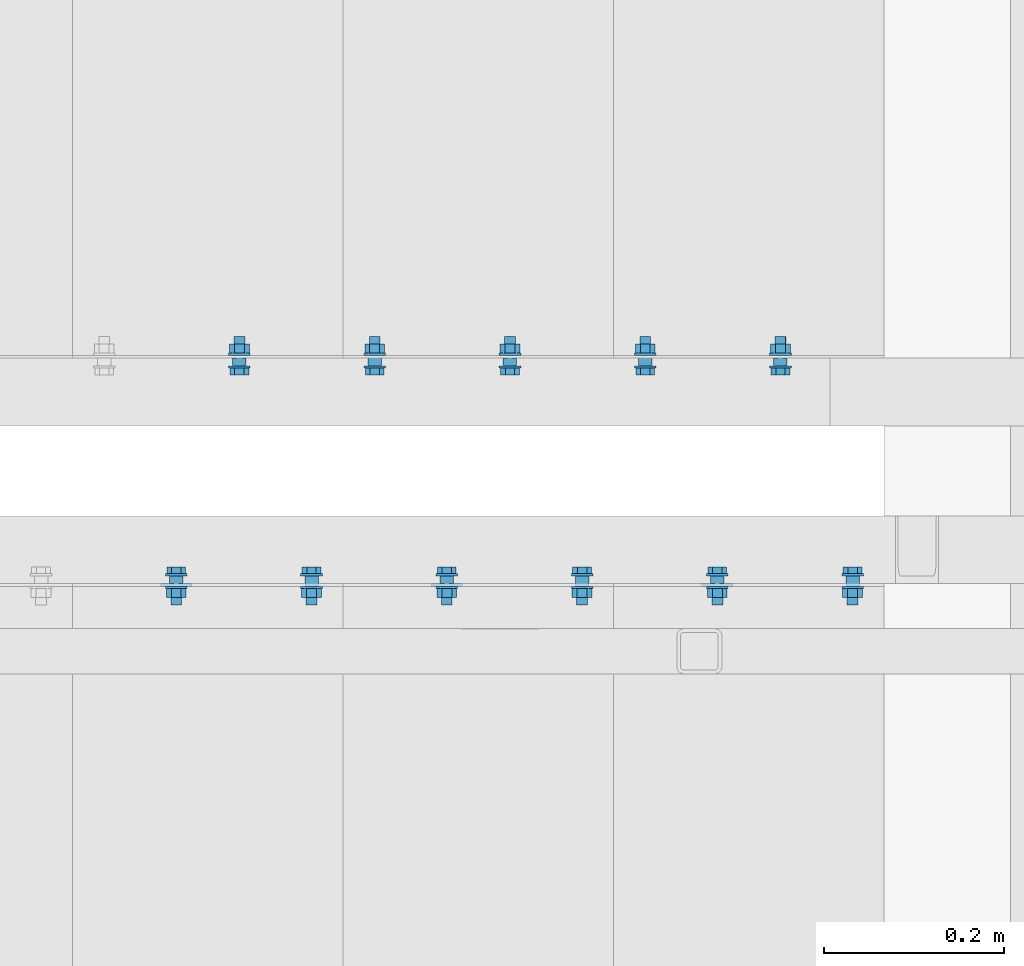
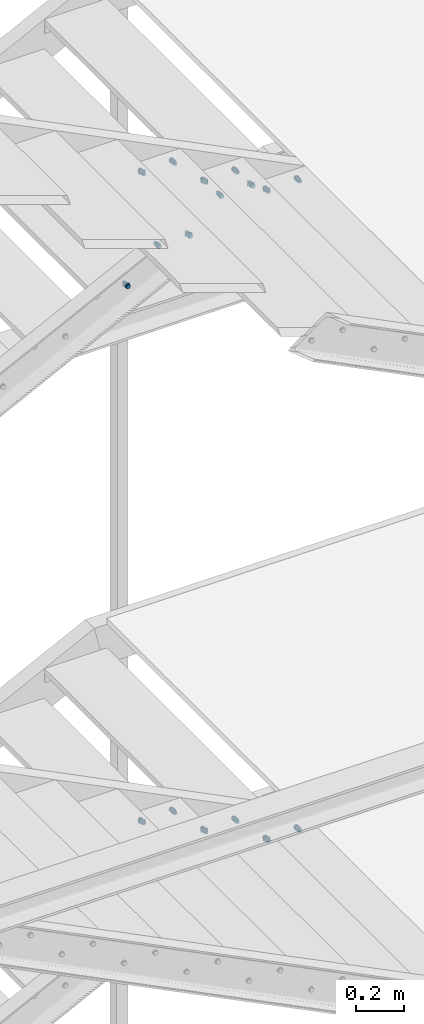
# One storey, part 109 of 132: 17 mechanical fasteners, 9 elements without a shape of their own.
"""IFC2X3 building model written with IfcOpenShell, lengths in millimetres."""

from ifc_helpers import new_model, si_unit, frame, frame_2d, origin_with_axes, origin_2d_with_axis, place, context, subcontext, project, spatial, polyline, circle_curve, parameter, trimmed, segment, composite_curve, circle, outline, extrude, source, transform, mapped, material, type_object, element, aggregate, save


model = new_model("IFC2X3")

# Units and contexts
model_context = context("Model", 3, precision=1e-05, world=origin_with_axes())
body_context = subcontext(model_context, "Body", "Model", "MODEL_VIEW")
ifc_project = project(units=[si_unit("LENGTHUNIT", "METRE", prefix="MILLI"), si_unit("AREAUNIT", "SQUARE_METRE"), si_unit("VOLUMEUNIT", "CUBIC_METRE"), si_unit("MASSUNIT", "GRAM", prefix="KILO"), si_unit("TIMEUNIT", "SECOND"), si_unit("PLANEANGLEUNIT", "RADIAN"), si_unit("SOLIDANGLEUNIT", "STERADIAN"), si_unit("THERMODYNAMICTEMPERATUREUNIT", "DEGREE_CELSIUS"), si_unit("LUMINOUSINTENSITYUNIT", "LUMEN")], contexts=[model_context])

# Site, building, storey
site_placement = place(None, origin_with_axes())
site = spatial("IfcSite", under=ifc_project, at=site_placement, Name="Budowa", CompositionType="ELEMENT")
building_placement = place(site_placement, origin_with_axes())
building = spatial("IfcBuilding", under=site, at=building_placement, Name="Undefined", CompositionType="ELEMENT")
storey_placement = place(building_placement, origin_with_axes())
storey = spatial("IfcBuildingStorey", under=building, at=storey_placement, Name="Undefined", CompositionType="ELEMENT", Elevation=0.0)

# Assembly, mechanical fastener
assembly_1_placement = place(storey_placement, origin_with_axes())
assembly_1 = element("IfcElementAssembly", 1, at=assembly_1_placement, inside=storey, Name="Steel Assembly", AssemblyPlace="NOTDEFINED", PredefinedType="RIGID_FRAME")
ifc_material = material(Name="Undefined")
discrete_accessory_type = type_object("IfcDiscreteAccessoryType", Name="Bolt assembly")
shared_shape_1 = source(origin_with_axes(), body_context, "Body", "SweptSolid", [
    extrude(circle(Radius=7.5, at=origin_2d_with_axis()), frame((0.0, -8.40000000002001, 0.0), z_axis=(0.0, 1.0, 0.0), x_axis=(1.0, 0.0, 0.0)), (0.0, 0.0, 1.0), 8.5),
    extrude(circle(Radius=7.5, at=origin_2d_with_axis()), frame((0.0, -0.1, 0.0), z_axis=(0.0, 1.0, 0.0), x_axis=(1.0, 0.0, 0.0)), (0.0, 0.0, 1.0), 3.1),
    extrude(outline(polyline([(10.39230484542, 0.0), (5.19615242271, 9.00000000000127), (-5.19615242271, 9.00000000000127), (-10.39230484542, 0.0), (-5.19615242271, -9.00000000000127), (5.19615242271, -9.00000000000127), (10.39230484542, 0.0)])), frame((0.0, -18.50000000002, 0.0), z_axis=(0.0, 1.0, 0.0), x_axis=(1.0, 0.0, 0.0)), (0.0, 0.0, 1.0), 7.5),
    extrude(circle(Radius=6.0, at=origin_2d_with_axis()), frame((0.0, -11.00000000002, 0.0), z_axis=(0.0, 1.0, 0.0), x_axis=(1.0, 0.0, 0.0)), (0.0, 0.0, 1.0), 35.0),
    extrude(circle(Radius=12.0, at=origin_2d_with_axis()), frame((0.0, -11.00000000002, 0.0), z_axis=(0.0, 1.0, 0.0), x_axis=(1.0, 0.0, 0.0)), (0.0, 0.0, 1.0), 2.5),
    extrude(circle(Radius=12.0, at=origin_2d_with_axis()), frame((0.0, 3.0, 0.0), z_axis=(0.0, 1.0, 0.0), x_axis=(1.0, 0.0, 0.0)), (0.0, 0.0, 1.0), 2.5),
    extrude(outline(polyline([(10.96965511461, 0.0), (5.484827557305, 9.50000000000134), (-5.484827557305, 9.50000000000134), (-10.96965511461, 0.0), (-5.484827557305, -9.50000000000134), (5.484827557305, -9.50000000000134), (10.96965511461, 0.0)])), frame((0.0, 5.5, 0.0), z_axis=(0.0, 1.0, 0.0), x_axis=(1.0, 0.0, 0.0)), (0.0, 0.0, 1.0), 10.0),
])
mechanical_fastener_1_placement = place(assembly_1_placement, frame((-1720.00000007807, 9275.00000004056, 7700.00000000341), z_axis=(0.0, 0.0, -1.0), x_axis=(1.0, 0.0, 0.0)))
mechanical_fastener_1 = element("IfcMechanicalFastener", 2, at=mechanical_fastener_1_placement, type_object=discrete_accessory_type, material=ifc_material, Name="Bolt assembly", NominalDiameter=12.0, NominalLength=35.0, context=body_context, shape_type="MappedRepresentation", body=[
    mapped(shared_shape_1, transform((265.0, 0.0, 25.0))),
])

assembly_2_placement = place(storey_placement, origin_with_axes())
assembly_2 = element("IfcElementAssembly", 3, at=assembly_2_placement, inside=storey, Name="Steel Assembly", AssemblyPlace="NOTDEFINED", PredefinedType="RIGID_FRAME")
mechanical_fastener_2_placement = place(assembly_2_placement, frame((-1420.00000007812, 9275.00000004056, 7550.00000000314), z_axis=(0.0, 0.0, -1.0), x_axis=(1.0, 0.0, 0.0)))
mechanical_fastener_2 = element("IfcMechanicalFastener", 4, at=mechanical_fastener_2_placement, type_object=discrete_accessory_type, material=ifc_material, Name="Bolt assembly", NominalDiameter=12.0, NominalLength=35.0, context=body_context, shape_type="MappedRepresentation", body=[
    mapped(shared_shape_1, transform((265.0, 0.0, 25.0))),
])

assembly_3_placement = place(storey_placement, origin_with_axes())
assembly_3 = element("IfcElementAssembly", 5, at=assembly_3_placement, inside=storey, Name="Steel Assembly", AssemblyPlace="NOTDEFINED", PredefinedType="RIGID_FRAME")
mechanical_fastener_3_placement = place(assembly_3_placement, frame((-1120.00000007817, 9275.00000004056, 7400.00000000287), z_axis=(0.0, 0.0, -1.0), x_axis=(1.0, 0.0, 0.0)))
mechanical_fastener_3 = element("IfcMechanicalFastener", 6, at=mechanical_fastener_3_placement, type_object=discrete_accessory_type, material=ifc_material, Name="Bolt assembly", NominalDiameter=12.0, NominalLength=35.0, context=body_context, shape_type="MappedRepresentation", body=[
    mapped(shared_shape_1, transform((265.0, 0.0, 25.0))),
])

assembly_4_placement = place(storey_placement, origin_with_axes())
assembly_4 = element("IfcElementAssembly", 7, at=assembly_4_placement, inside=storey, Name="Steel Assembly", AssemblyPlace="NOTDEFINED", PredefinedType="RIGID_FRAME")
mechanical_fastener_4_placement = place(assembly_4_placement, frame((-820.000000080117, 9525.0000000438, 7249.99999999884), z_axis=(0.0, 0.0, -1.0), x_axis=(-1.0, 0.0, 0.0)))
mechanical_fastener_4 = element("IfcMechanicalFastener", 8, at=mechanical_fastener_4_placement, type_object=discrete_accessory_type, material=ifc_material, Name="Bolt assembly", NominalDiameter=12.0, NominalLength=35.0, context=body_context, shape_type="MappedRepresentation", body=[
    mapped(shared_shape_1, transform((265.0, 0.0, 25.0))),
])

assembly_5_placement = place(storey_placement, origin_with_axes())
assembly_5 = element("IfcElementAssembly", 9, at=assembly_5_placement, inside=storey, Name="Steel Assembly", AssemblyPlace="NOTDEFINED", PredefinedType="RIGID_FRAME")
mechanical_fastener_5_placement = place(assembly_5_placement, frame((-1120.00000008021, 9525.0000000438, 7099.99999999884), z_axis=(0.0, 0.0, -1.0), x_axis=(-1.0, 0.0, 0.0)))
mechanical_fastener_5 = element("IfcMechanicalFastener", 10, at=mechanical_fastener_5_placement, type_object=discrete_accessory_type, material=ifc_material, Name="Bolt assembly", NominalDiameter=12.0, NominalLength=35.0, context=body_context, shape_type="MappedRepresentation", body=[
    mapped(shared_shape_1, transform((265.0, 0.0, 25.0))),
])

assembly_6_placement = place(storey_placement, origin_with_axes())
assembly_6 = element("IfcElementAssembly", 11, at=assembly_6_placement, inside=storey, Name="Steel Assembly", AssemblyPlace="NOTDEFINED", PredefinedType="RIGID_FRAME")
mechanical_fastener_6_placement = place(assembly_6_placement, frame((-1720.00000007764, 9275.00000004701, 4399.99999999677), z_axis=(0.0, 0.0, -1.0), x_axis=(1.0, 0.0, 0.0)))
mechanical_fastener_6 = element("IfcMechanicalFastener", 12, at=mechanical_fastener_6_placement, type_object=discrete_accessory_type, material=ifc_material, Name="Bolt assembly", NominalDiameter=12.0, NominalLength=35.0, context=body_context, shape_type="MappedRepresentation", body=[
    mapped(shared_shape_1, transform((265.0, 0.0, 25.0))),
])

assembly_7_placement = place(storey_placement, origin_with_axes())
assembly_7 = element("IfcElementAssembly", 13, at=assembly_7_placement, inside=storey, Name="Steel Assembly", AssemblyPlace="NOTDEFINED", PredefinedType="RIGID_FRAME")
mechanical_fastener_7_placement = place(assembly_7_placement, frame((-1420.00000007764, 9275.00000004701, 4249.99999999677), z_axis=(0.0, 0.0, -1.0), x_axis=(1.0, 0.0, 0.0)))
mechanical_fastener_7 = element("IfcMechanicalFastener", 14, at=mechanical_fastener_7_placement, type_object=discrete_accessory_type, material=ifc_material, Name="Bolt assembly", NominalDiameter=12.0, NominalLength=35.0, context=body_context, shape_type="MappedRepresentation", body=[
    mapped(shared_shape_1, transform((265.0, 0.0, 25.0))),
])

assembly_8_placement = place(storey_placement, origin_with_axes())
assembly_8 = element("IfcElementAssembly", 15, at=assembly_8_placement, inside=storey, Name="Steel Assembly", AssemblyPlace="NOTDEFINED", PredefinedType="RIGID_FRAME")
mechanical_fastener_8_placement = place(assembly_8_placement, frame((-1120.00000007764, 9275.00000004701, 4099.99999999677), z_axis=(0.0, 0.0, -1.0), x_axis=(1.0, 0.0, 0.0)))
mechanical_fastener_8 = element("IfcMechanicalFastener", 16, at=mechanical_fastener_8_placement, type_object=discrete_accessory_type, material=ifc_material, Name="Bolt assembly", NominalDiameter=12.0, NominalLength=35.0, context=body_context, shape_type="MappedRepresentation", body=[
    mapped(shared_shape_1, transform((265.0, 0.0, 25.0))),
])

# Mechanical fastener
shared_shape_2 = source(origin_with_axes(), body_context, "Body", "SweptSolid", [
    extrude(circle(Radius=7.5, at=origin_2d_with_axis()), frame((0.0, -8.40000000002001, 0.0), z_axis=(0.0, 1.0, 0.0), x_axis=(1.0, 0.0, 0.0)), (0.0, 0.0, 1.0), 8.5),
    extrude(outline(composite_curve([segment(polyline([(-10.0, 7.5), (10.0, 7.5)]), True, "CONTINUOUS"), segment(trimmed(circle_curve(frame_2d((10.0, 0.0), x_axis=(0.0, 1.0)), 7.5), [parameter(0.0)], [parameter(3.14159265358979)], False, "PARAMETER"), True, "CONTINUOUS"), segment(polyline([(10.0, -7.5), (-10.0, -7.5)]), True, "CONTINUOUS"), segment(trimmed(circle_curve(frame_2d((-10.0, 0.0), x_axis=(0.0, -1.0)), 7.5), [parameter(0.0)], [parameter(3.14159265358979)], False, "PARAMETER"), True, "DISCONTINUOUS")], self_intersect=False)), frame((0.0, -0.1, 0.0), z_axis=(0.0, 1.0, 0.0), x_axis=(1.0, 0.0, 0.0)), (0.0, 0.0, 1.0), 3.1),
    extrude(outline(polyline([(10.39230484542, 0.0), (5.19615242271, 9.00000000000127), (-5.19615242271, 9.00000000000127), (-10.39230484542, 0.0), (-5.19615242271, -9.00000000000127), (5.19615242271, -9.00000000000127), (10.39230484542, 0.0)])), frame((0.0, -18.50000000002, 0.0), z_axis=(0.0, 1.0, 0.0), x_axis=(1.0, 0.0, 0.0)), (0.0, 0.0, 1.0), 7.5),
    extrude(circle(Radius=6.0, at=origin_2d_with_axis()), frame((0.0, -11.00000000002, 0.0), z_axis=(0.0, 1.0, 0.0), x_axis=(1.0, 0.0, 0.0)), (0.0, 0.0, 1.0), 35.0),
    extrude(circle(Radius=12.0, at=origin_2d_with_axis()), frame((0.0, -11.00000000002, 0.0), z_axis=(0.0, 1.0, 0.0), x_axis=(1.0, 0.0, 0.0)), (0.0, 0.0, 1.0), 2.5),
    extrude(circle(Radius=12.0, at=origin_2d_with_axis()), frame((0.0, 3.0, 0.0), z_axis=(0.0, 1.0, 0.0), x_axis=(1.0, 0.0, 0.0)), (0.0, 0.0, 1.0), 2.5),
    extrude(outline(polyline([(10.96965511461, 0.0), (5.484827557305, 9.50000000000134), (-5.484827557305, 9.50000000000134), (-10.96965511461, 0.0), (-5.484827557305, -9.50000000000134), (5.484827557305, -9.50000000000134), (10.96965511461, 0.0)])), frame((0.0, 5.5, 0.0), z_axis=(0.0, 1.0, 0.0), x_axis=(1.0, 0.0, 0.0)), (0.0, 0.0, 1.0), 10.0),
])
mechanical_fastener_9_placement = place(assembly_1_placement, frame((-1720.00000007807, 9275.00000004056, 7700.00000000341), z_axis=(0.0, 0.0, -1.0), x_axis=(1.0, 0.0, 0.0)))
mechanical_fastener_9 = element("IfcMechanicalFastener", 17, at=mechanical_fastener_9_placement, type_object=discrete_accessory_type, material=ifc_material, Name="Bolt assembly", NominalDiameter=12.0, NominalLength=35.0, context=body_context, shape_type="MappedRepresentation", body=[
    mapped(shared_shape_2, transform((115.0, 0.0, 25.0))),
])

aggregate(assembly_1, [mechanical_fastener_9, mechanical_fastener_1])

shared_shape_3 = source(origin_with_axes(), body_context, "Body", "SweptSolid", [
    extrude(circle(Radius=7.5, at=origin_2d_with_axis()), frame((0.0, -8.40000000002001, 0.0), z_axis=(0.0, 1.0, 0.0), x_axis=(1.0, 0.0, 0.0)), (0.0, 0.0, 1.0), 8.5),
    extrude(outline(composite_curve([segment(polyline([(-10.0, 7.5), (10.0, 7.5)]), True, "CONTINUOUS"), segment(trimmed(circle_curve(frame_2d((10.0, 0.0), x_axis=(0.0, 1.0)), 7.5), [parameter(0.0)], [parameter(3.14159265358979)], False, "PARAMETER"), True, "CONTINUOUS"), segment(polyline([(10.0, -7.5), (-10.0, -7.5)]), True, "CONTINUOUS"), segment(trimmed(circle_curve(frame_2d((-10.0, 0.0), x_axis=(0.0, -1.0)), 7.5), [parameter(0.0)], [parameter(3.14159265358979)], False, "PARAMETER"), True, "DISCONTINUOUS")], self_intersect=False)), frame((0.0, -0.1, 0.0), z_axis=(0.0, 1.0, 0.0), x_axis=(1.0, 0.0, 0.0)), (0.0, 0.0, 1.0), 3.1),
    extrude(outline(polyline([(10.39230484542, 0.0), (5.19615242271, 9.00000000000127), (-5.19615242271, 9.00000000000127), (-10.39230484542, 0.0), (-5.19615242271, -9.00000000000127), (5.19615242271, -9.00000000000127), (10.39230484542, 0.0)])), frame((0.0, -18.50000000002, 0.0), z_axis=(0.0, 1.0, 0.0), x_axis=(1.0, 0.0, 0.0)), (0.0, 0.0, 1.0), 7.5),
    extrude(circle(Radius=6.0, at=origin_2d_with_axis()), frame((0.0, -11.00000000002, 0.0), z_axis=(0.0, 1.0, 0.0), x_axis=(1.0, 0.0, 0.0)), (0.0, 0.0, 1.0), 35.0),
    extrude(circle(Radius=12.0, at=origin_2d_with_axis()), frame((0.0, -11.00000000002, 0.0), z_axis=(0.0, 1.0, 0.0), x_axis=(1.0, 0.0, 0.0)), (0.0, 0.0, 1.0), 2.5),
    extrude(circle(Radius=12.0, at=origin_2d_with_axis()), frame((0.0, 3.0, 0.0), z_axis=(0.0, 1.0, 0.0), x_axis=(1.0, 0.0, 0.0)), (0.0, 0.0, 1.0), 2.5),
    extrude(outline(polyline([(10.96965511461, 0.0), (5.484827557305, 9.50000000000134), (-5.484827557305, 9.50000000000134), (-10.96965511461, 0.0), (-5.484827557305, -9.50000000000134), (5.484827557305, -9.50000000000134), (10.96965511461, 0.0)])), frame((0.0, 5.5, 0.0), z_axis=(0.0, 1.0, 0.0), x_axis=(1.0, 0.0, 0.0)), (0.0, 0.0, 1.0), 10.0),
])
mechanical_fastener_10_placement = place(assembly_2_placement, frame((-1420.00000007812, 9275.00000004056, 7550.00000000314), z_axis=(0.0, 0.0, -1.0), x_axis=(1.0, 0.0, 0.0)))
mechanical_fastener_10 = element("IfcMechanicalFastener", 18, at=mechanical_fastener_10_placement, type_object=discrete_accessory_type, material=ifc_material, Name="Bolt assembly", NominalDiameter=12.0, NominalLength=35.0, context=body_context, shape_type="MappedRepresentation", body=[
    mapped(shared_shape_3, transform((115.0, 0.0, 25.0))),
])

aggregate(assembly_2, [mechanical_fastener_10, mechanical_fastener_2])

shared_shape_4 = source(origin_with_axes(), body_context, "Body", "SweptSolid", [
    extrude(circle(Radius=7.5, at=origin_2d_with_axis()), frame((0.0, -8.40000000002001, 0.0), z_axis=(0.0, 1.0, 0.0), x_axis=(1.0, 0.0, 0.0)), (0.0, 0.0, 1.0), 8.5),
    extrude(outline(composite_curve([segment(polyline([(-10.0, 7.5), (10.0, 7.5)]), True, "CONTINUOUS"), segment(trimmed(circle_curve(frame_2d((10.0, 0.0), x_axis=(0.0, 1.0)), 7.5), [parameter(0.0)], [parameter(3.14159265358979)], False, "PARAMETER"), True, "CONTINUOUS"), segment(polyline([(10.0, -7.5), (-10.0, -7.5)]), True, "CONTINUOUS"), segment(trimmed(circle_curve(frame_2d((-10.0, 0.0), x_axis=(0.0, -1.0)), 7.5), [parameter(0.0)], [parameter(3.14159265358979)], False, "PARAMETER"), True, "DISCONTINUOUS")], self_intersect=False)), frame((0.0, -0.1, 0.0), z_axis=(0.0, 1.0, 0.0), x_axis=(1.0, 0.0, 0.0)), (0.0, 0.0, 1.0), 3.1),
    extrude(outline(polyline([(10.39230484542, 0.0), (5.19615242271, 9.00000000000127), (-5.19615242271, 9.00000000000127), (-10.39230484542, 0.0), (-5.19615242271, -9.00000000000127), (5.19615242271, -9.00000000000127), (10.39230484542, 0.0)])), frame((0.0, -18.50000000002, 0.0), z_axis=(0.0, 1.0, 0.0), x_axis=(1.0, 0.0, 0.0)), (0.0, 0.0, 1.0), 7.5),
    extrude(circle(Radius=6.0, at=origin_2d_with_axis()), frame((0.0, -11.00000000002, 0.0), z_axis=(0.0, 1.0, 0.0), x_axis=(1.0, 0.0, 0.0)), (0.0, 0.0, 1.0), 35.0),
    extrude(circle(Radius=12.0, at=origin_2d_with_axis()), frame((0.0, -11.00000000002, 0.0), z_axis=(0.0, 1.0, 0.0), x_axis=(1.0, 0.0, 0.0)), (0.0, 0.0, 1.0), 2.5),
    extrude(circle(Radius=12.0, at=origin_2d_with_axis()), frame((0.0, 3.0, 0.0), z_axis=(0.0, 1.0, 0.0), x_axis=(1.0, 0.0, 0.0)), (0.0, 0.0, 1.0), 2.5),
    extrude(outline(polyline([(10.96965511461, 0.0), (5.484827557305, 9.50000000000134), (-5.484827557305, 9.50000000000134), (-10.96965511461, 0.0), (-5.484827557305, -9.50000000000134), (5.484827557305, -9.50000000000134), (10.96965511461, 0.0)])), frame((0.0, 5.5, 0.0), z_axis=(0.0, 1.0, 0.0), x_axis=(1.0, 0.0, 0.0)), (0.0, 0.0, 1.0), 10.0),
])
mechanical_fastener_11_placement = place(assembly_3_placement, frame((-1120.00000007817, 9275.00000004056, 7400.00000000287), z_axis=(0.0, 0.0, -1.0), x_axis=(1.0, 0.0, 0.0)))
mechanical_fastener_11 = element("IfcMechanicalFastener", 19, at=mechanical_fastener_11_placement, type_object=discrete_accessory_type, material=ifc_material, Name="Bolt assembly", NominalDiameter=12.0, NominalLength=35.0, context=body_context, shape_type="MappedRepresentation", body=[
    mapped(shared_shape_4, transform((115.0, 0.0, 25.0))),
])

aggregate(assembly_3, [mechanical_fastener_11, mechanical_fastener_3])

shared_shape_5 = source(origin_with_axes(), body_context, "Body", "SweptSolid", [
    extrude(circle(Radius=7.5, at=origin_2d_with_axis()), frame((0.0, -8.40000000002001, 0.0), z_axis=(0.0, 1.0, 0.0), x_axis=(1.0, 0.0, 0.0)), (0.0, 0.0, 1.0), 8.5),
    extrude(outline(composite_curve([segment(polyline([(-10.0, 7.5), (10.0, 7.5)]), True, "CONTINUOUS"), segment(trimmed(circle_curve(frame_2d((10.0, 0.0), x_axis=(0.0, 1.0)), 7.5), [parameter(0.0)], [parameter(3.14159265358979)], False, "PARAMETER"), True, "CONTINUOUS"), segment(polyline([(10.0, -7.5), (-10.0, -7.5)]), True, "CONTINUOUS"), segment(trimmed(circle_curve(frame_2d((-10.0, 0.0), x_axis=(0.0, -1.0)), 7.5), [parameter(0.0)], [parameter(3.14159265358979)], False, "PARAMETER"), True, "DISCONTINUOUS")], self_intersect=False)), frame((0.0, -0.1, 0.0), z_axis=(0.0, 1.0, 0.0), x_axis=(1.0, 0.0, 0.0)), (0.0, 0.0, 1.0), 3.1),
    extrude(outline(polyline([(10.39230484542, 0.0), (5.19615242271, 9.00000000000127), (-5.19615242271, 9.00000000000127), (-10.39230484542, 0.0), (-5.19615242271, -9.00000000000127), (5.19615242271, -9.00000000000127), (10.39230484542, 0.0)])), frame((0.0, -18.50000000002, 0.0), z_axis=(0.0, 1.0, 0.0), x_axis=(1.0, 0.0, 0.0)), (0.0, 0.0, 1.0), 7.5),
    extrude(circle(Radius=6.0, at=origin_2d_with_axis()), frame((0.0, -11.00000000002, 0.0), z_axis=(0.0, 1.0, 0.0), x_axis=(1.0, 0.0, 0.0)), (0.0, 0.0, 1.0), 35.0),
    extrude(circle(Radius=12.0, at=origin_2d_with_axis()), frame((0.0, -11.00000000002, 0.0), z_axis=(0.0, 1.0, 0.0), x_axis=(1.0, 0.0, 0.0)), (0.0, 0.0, 1.0), 2.5),
    extrude(circle(Radius=12.0, at=origin_2d_with_axis()), frame((0.0, 3.0, 0.0), z_axis=(0.0, 1.0, 0.0), x_axis=(1.0, 0.0, 0.0)), (0.0, 0.0, 1.0), 2.5),
    extrude(outline(polyline([(10.96965511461, 0.0), (5.484827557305, 9.50000000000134), (-5.484827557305, 9.50000000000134), (-10.96965511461, 0.0), (-5.484827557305, -9.50000000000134), (5.484827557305, -9.50000000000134), (10.96965511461, 0.0)])), frame((0.0, 5.5, 0.0), z_axis=(0.0, 1.0, 0.0), x_axis=(1.0, 0.0, 0.0)), (0.0, 0.0, 1.0), 10.0),
])
mechanical_fastener_12_placement = place(assembly_4_placement, frame((-820.000000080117, 9525.0000000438, 7249.99999999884), z_axis=(0.0, 0.0, -1.0), x_axis=(-1.0, 0.0, 0.0)))
mechanical_fastener_12 = element("IfcMechanicalFastener", 20, at=mechanical_fastener_12_placement, type_object=discrete_accessory_type, material=ifc_material, Name="Bolt assembly", NominalDiameter=12.0, NominalLength=35.0, context=body_context, shape_type="MappedRepresentation", body=[
    mapped(shared_shape_5, transform((115.0, 0.0, 25.0))),
])

aggregate(assembly_4, [mechanical_fastener_12, mechanical_fastener_4])

shared_shape_6 = source(origin_with_axes(), body_context, "Body", "SweptSolid", [
    extrude(circle(Radius=7.5, at=origin_2d_with_axis()), frame((0.0, -8.40000000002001, 0.0), z_axis=(0.0, 1.0, 0.0), x_axis=(1.0, 0.0, 0.0)), (0.0, 0.0, 1.0), 8.5),
    extrude(outline(composite_curve([segment(polyline([(-10.0, 7.5), (10.0, 7.5)]), True, "CONTINUOUS"), segment(trimmed(circle_curve(frame_2d((10.0, 0.0), x_axis=(0.0, 1.0)), 7.5), [parameter(0.0)], [parameter(3.14159265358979)], False, "PARAMETER"), True, "CONTINUOUS"), segment(polyline([(10.0, -7.5), (-10.0, -7.5)]), True, "CONTINUOUS"), segment(trimmed(circle_curve(frame_2d((-10.0, 0.0), x_axis=(0.0, -1.0)), 7.5), [parameter(0.0)], [parameter(3.14159265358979)], False, "PARAMETER"), True, "DISCONTINUOUS")], self_intersect=False)), frame((0.0, -0.1, 0.0), z_axis=(0.0, 1.0, 0.0), x_axis=(1.0, 0.0, 0.0)), (0.0, 0.0, 1.0), 3.1),
    extrude(outline(polyline([(10.39230484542, 0.0), (5.19615242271, 9.00000000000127), (-5.19615242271, 9.00000000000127), (-10.39230484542, 0.0), (-5.19615242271, -9.00000000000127), (5.19615242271, -9.00000000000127), (10.39230484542, 0.0)])), frame((0.0, -18.50000000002, 0.0), z_axis=(0.0, 1.0, 0.0), x_axis=(1.0, 0.0, 0.0)), (0.0, 0.0, 1.0), 7.5),
    extrude(circle(Radius=6.0, at=origin_2d_with_axis()), frame((0.0, -11.00000000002, 0.0), z_axis=(0.0, 1.0, 0.0), x_axis=(1.0, 0.0, 0.0)), (0.0, 0.0, 1.0), 35.0),
    extrude(circle(Radius=12.0, at=origin_2d_with_axis()), frame((0.0, -11.00000000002, 0.0), z_axis=(0.0, 1.0, 0.0), x_axis=(1.0, 0.0, 0.0)), (0.0, 0.0, 1.0), 2.5),
    extrude(circle(Radius=12.0, at=origin_2d_with_axis()), frame((0.0, 3.0, 0.0), z_axis=(0.0, 1.0, 0.0), x_axis=(1.0, 0.0, 0.0)), (0.0, 0.0, 1.0), 2.5),
    extrude(outline(polyline([(10.96965511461, 0.0), (5.484827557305, 9.50000000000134), (-5.484827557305, 9.50000000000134), (-10.96965511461, 0.0), (-5.484827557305, -9.50000000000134), (5.484827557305, -9.50000000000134), (10.96965511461, 0.0)])), frame((0.0, 5.5, 0.0), z_axis=(0.0, 1.0, 0.0), x_axis=(1.0, 0.0, 0.0)), (0.0, 0.0, 1.0), 10.0),
])
mechanical_fastener_13_placement = place(assembly_5_placement, frame((-1120.00000008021, 9525.0000000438, 7099.99999999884), z_axis=(0.0, 0.0, -1.0), x_axis=(-1.0, 0.0, 0.0)))
mechanical_fastener_13 = element("IfcMechanicalFastener", 21, at=mechanical_fastener_13_placement, type_object=discrete_accessory_type, material=ifc_material, Name="Bolt assembly", NominalDiameter=12.0, NominalLength=35.0, context=body_context, shape_type="MappedRepresentation", body=[
    mapped(shared_shape_6, transform((115.0, 0.0, 25.0))),
])

aggregate(assembly_5, [mechanical_fastener_13, mechanical_fastener_5])

# Assembly, mechanical fastener
assembly_9_placement = place(storey_placement, origin_with_axes())
assembly_9 = element("IfcElementAssembly", 22, at=assembly_9_placement, inside=storey, Name="Steel Assembly", AssemblyPlace="NOTDEFINED", PredefinedType="RIGID_FRAME")
shared_shape_7 = source(origin_with_axes(), body_context, "Body", "SweptSolid", [
    extrude(circle(Radius=7.5, at=origin_2d_with_axis()), frame((0.0, -8.40000000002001, 0.0), z_axis=(0.0, 1.0, 0.0), x_axis=(1.0, 0.0, 0.0)), (0.0, 0.0, 1.0), 8.5),
    extrude(outline(composite_curve([segment(polyline([(-10.0, 7.5), (10.0, 7.5)]), True, "CONTINUOUS"), segment(trimmed(circle_curve(frame_2d((10.0, 0.0), x_axis=(0.0, 1.0)), 7.5), [parameter(0.0)], [parameter(3.14159265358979)], False, "PARAMETER"), True, "CONTINUOUS"), segment(polyline([(10.0, -7.5), (-10.0, -7.5)]), True, "CONTINUOUS"), segment(trimmed(circle_curve(frame_2d((-10.0, 0.0), x_axis=(0.0, -1.0)), 7.5), [parameter(0.0)], [parameter(3.14159265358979)], False, "PARAMETER"), True, "DISCONTINUOUS")], self_intersect=False)), frame((0.0, -0.1, 0.0), z_axis=(0.0, 1.0, 0.0), x_axis=(1.0, 0.0, 0.0)), (0.0, 0.0, 1.0), 3.1),
    extrude(outline(polyline([(10.39230484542, 0.0), (5.19615242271, 9.00000000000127), (-5.19615242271, 9.00000000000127), (-10.39230484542, 0.0), (-5.19615242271, -9.00000000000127), (5.19615242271, -9.00000000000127), (10.39230484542, 0.0)])), frame((0.0, -18.50000000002, 0.0), z_axis=(0.0, 1.0, 0.0), x_axis=(1.0, 0.0, 0.0)), (0.0, 0.0, 1.0), 7.5),
    extrude(circle(Radius=6.0, at=origin_2d_with_axis()), frame((0.0, -11.00000000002, 0.0), z_axis=(0.0, 1.0, 0.0), x_axis=(1.0, 0.0, 0.0)), (0.0, 0.0, 1.0), 35.0),
    extrude(circle(Radius=12.0, at=origin_2d_with_axis()), frame((0.0, -11.00000000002, 0.0), z_axis=(0.0, 1.0, 0.0), x_axis=(1.0, 0.0, 0.0)), (0.0, 0.0, 1.0), 2.5),
    extrude(circle(Radius=12.0, at=origin_2d_with_axis()), frame((0.0, 3.0, 0.0), z_axis=(0.0, 1.0, 0.0), x_axis=(1.0, 0.0, 0.0)), (0.0, 0.0, 1.0), 2.5),
    extrude(outline(polyline([(10.96965511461, 0.0), (5.484827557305, 9.50000000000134), (-5.484827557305, 9.50000000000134), (-10.96965511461, 0.0), (-5.484827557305, -9.50000000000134), (5.484827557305, -9.50000000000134), (10.96965511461, 0.0)])), frame((0.0, 5.5, 0.0), z_axis=(0.0, 1.0, 0.0), x_axis=(1.0, 0.0, 0.0)), (0.0, 0.0, 1.0), 10.0),
])
mechanical_fastener_14_placement = place(assembly_9_placement, frame((-1420.00000008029, 9525.0000000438, 6949.99999999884), z_axis=(0.0, 0.0, -1.0), x_axis=(-1.0, 0.0, 0.0)))
mechanical_fastener_14 = element("IfcMechanicalFastener", 23, at=mechanical_fastener_14_placement, type_object=discrete_accessory_type, material=ifc_material, Name="Bolt assembly", NominalDiameter=12.0, NominalLength=35.0, context=body_context, shape_type="MappedRepresentation", body=[
    mapped(shared_shape_7, transform((115.0, 0.0, 25.0))),
])
aggregate(assembly_9, [mechanical_fastener_14])

# Mechanical fastener
shared_shape_8 = source(origin_with_axes(), body_context, "Body", "SweptSolid", [
    extrude(circle(Radius=7.5, at=origin_2d_with_axis()), frame((0.0, -8.40000000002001, 0.0), z_axis=(0.0, 1.0, 0.0), x_axis=(1.0, 0.0, 0.0)), (0.0, 0.0, 1.0), 8.5),
    extrude(outline(composite_curve([segment(polyline([(-10.0, 7.5), (10.0, 7.5)]), True, "CONTINUOUS"), segment(trimmed(circle_curve(frame_2d((10.0, 0.0), x_axis=(0.0, 1.0)), 7.5), [parameter(0.0)], [parameter(3.14159265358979)], False, "PARAMETER"), True, "CONTINUOUS"), segment(polyline([(10.0, -7.5), (-10.0, -7.5)]), True, "CONTINUOUS"), segment(trimmed(circle_curve(frame_2d((-10.0, 0.0), x_axis=(0.0, -1.0)), 7.5), [parameter(0.0)], [parameter(3.14159265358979)], False, "PARAMETER"), True, "DISCONTINUOUS")], self_intersect=False)), frame((0.0, -0.1, 0.0), z_axis=(0.0, 1.0, 0.0), x_axis=(1.0, 0.0, 0.0)), (0.0, 0.0, 1.0), 3.1),
    extrude(outline(polyline([(10.39230484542, 0.0), (5.19615242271, 9.00000000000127), (-5.19615242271, 9.00000000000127), (-10.39230484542, 0.0), (-5.19615242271, -9.00000000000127), (5.19615242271, -9.00000000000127), (10.39230484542, 0.0)])), frame((0.0, -18.50000000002, 0.0), z_axis=(0.0, 1.0, 0.0), x_axis=(1.0, 0.0, 0.0)), (0.0, 0.0, 1.0), 7.5),
    extrude(circle(Radius=6.0, at=origin_2d_with_axis()), frame((0.0, -11.00000000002, 0.0), z_axis=(0.0, 1.0, 0.0), x_axis=(1.0, 0.0, 0.0)), (0.0, 0.0, 1.0), 35.0),
    extrude(circle(Radius=12.0, at=origin_2d_with_axis()), frame((0.0, -11.00000000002, 0.0), z_axis=(0.0, 1.0, 0.0), x_axis=(1.0, 0.0, 0.0)), (0.0, 0.0, 1.0), 2.5),
    extrude(circle(Radius=12.0, at=origin_2d_with_axis()), frame((0.0, 3.0, 0.0), z_axis=(0.0, 1.0, 0.0), x_axis=(1.0, 0.0, 0.0)), (0.0, 0.0, 1.0), 2.5),
    extrude(outline(polyline([(10.96965511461, 0.0), (5.484827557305, 9.50000000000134), (-5.484827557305, 9.50000000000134), (-10.96965511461, 0.0), (-5.484827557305, -9.50000000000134), (5.484827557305, -9.50000000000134), (10.96965511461, 0.0)])), frame((0.0, 5.5, 0.0), z_axis=(0.0, 1.0, 0.0), x_axis=(1.0, 0.0, 0.0)), (0.0, 0.0, 1.0), 10.0),
])
mechanical_fastener_15_placement = place(assembly_6_placement, frame((-1720.00000007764, 9275.00000004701, 4399.99999999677), z_axis=(0.0, 0.0, -1.0), x_axis=(1.0, 0.0, 0.0)))
mechanical_fastener_15 = element("IfcMechanicalFastener", 24, at=mechanical_fastener_15_placement, type_object=discrete_accessory_type, material=ifc_material, Name="Bolt assembly", NominalDiameter=12.0, NominalLength=35.0, context=body_context, shape_type="MappedRepresentation", body=[
    mapped(shared_shape_8, transform((115.0, 0.0, 25.0))),
])

aggregate(assembly_6, [mechanical_fastener_15, mechanical_fastener_6])

shared_shape_9 = source(origin_with_axes(), body_context, "Body", "SweptSolid", [
    extrude(circle(Radius=7.5, at=origin_2d_with_axis()), frame((0.0, -8.40000000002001, 0.0), z_axis=(0.0, 1.0, 0.0), x_axis=(1.0, 0.0, 0.0)), (0.0, 0.0, 1.0), 8.5),
    extrude(outline(composite_curve([segment(polyline([(-10.0, 7.5), (10.0, 7.5)]), True, "CONTINUOUS"), segment(trimmed(circle_curve(frame_2d((10.0, 0.0), x_axis=(0.0, 1.0)), 7.5), [parameter(0.0)], [parameter(3.14159265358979)], False, "PARAMETER"), True, "CONTINUOUS"), segment(polyline([(10.0, -7.5), (-10.0, -7.5)]), True, "CONTINUOUS"), segment(trimmed(circle_curve(frame_2d((-10.0, 0.0), x_axis=(0.0, -1.0)), 7.5), [parameter(0.0)], [parameter(3.14159265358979)], False, "PARAMETER"), True, "DISCONTINUOUS")], self_intersect=False)), frame((0.0, -0.1, 0.0), z_axis=(0.0, 1.0, 0.0), x_axis=(1.0, 0.0, 0.0)), (0.0, 0.0, 1.0), 3.1),
    extrude(outline(polyline([(10.39230484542, 0.0), (5.19615242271, 9.00000000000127), (-5.19615242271, 9.00000000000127), (-10.39230484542, 0.0), (-5.19615242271, -9.00000000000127), (5.19615242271, -9.00000000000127), (10.39230484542, 0.0)])), frame((0.0, -18.50000000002, 0.0), z_axis=(0.0, 1.0, 0.0), x_axis=(1.0, 0.0, 0.0)), (0.0, 0.0, 1.0), 7.5),
    extrude(circle(Radius=6.0, at=origin_2d_with_axis()), frame((0.0, -11.00000000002, 0.0), z_axis=(0.0, 1.0, 0.0), x_axis=(1.0, 0.0, 0.0)), (0.0, 0.0, 1.0), 35.0),
    extrude(circle(Radius=12.0, at=origin_2d_with_axis()), frame((0.0, -11.00000000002, 0.0), z_axis=(0.0, 1.0, 0.0), x_axis=(1.0, 0.0, 0.0)), (0.0, 0.0, 1.0), 2.5),
    extrude(circle(Radius=12.0, at=origin_2d_with_axis()), frame((0.0, 3.0, 0.0), z_axis=(0.0, 1.0, 0.0), x_axis=(1.0, 0.0, 0.0)), (0.0, 0.0, 1.0), 2.5),
    extrude(outline(polyline([(10.96965511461, 0.0), (5.484827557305, 9.50000000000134), (-5.484827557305, 9.50000000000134), (-10.96965511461, 0.0), (-5.484827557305, -9.50000000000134), (5.484827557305, -9.50000000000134), (10.96965511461, 0.0)])), frame((0.0, 5.5, 0.0), z_axis=(0.0, 1.0, 0.0), x_axis=(1.0, 0.0, 0.0)), (0.0, 0.0, 1.0), 10.0),
])
mechanical_fastener_16_placement = place(assembly_7_placement, frame((-1420.00000007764, 9275.00000004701, 4249.99999999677), z_axis=(0.0, 0.0, -1.0), x_axis=(1.0, 0.0, 0.0)))
mechanical_fastener_16 = element("IfcMechanicalFastener", 25, at=mechanical_fastener_16_placement, type_object=discrete_accessory_type, material=ifc_material, Name="Bolt assembly", NominalDiameter=12.0, NominalLength=35.0, context=body_context, shape_type="MappedRepresentation", body=[
    mapped(shared_shape_9, transform((115.0, 0.0, 25.0))),
])

aggregate(assembly_7, [mechanical_fastener_16, mechanical_fastener_7])

shared_shape_10 = source(origin_with_axes(), body_context, "Body", "SweptSolid", [
    extrude(circle(Radius=7.5, at=origin_2d_with_axis()), frame((0.0, -8.40000000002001, 0.0), z_axis=(0.0, 1.0, 0.0), x_axis=(1.0, 0.0, 0.0)), (0.0, 0.0, 1.0), 8.5),
    extrude(outline(composite_curve([segment(polyline([(-10.0, 7.5), (10.0, 7.5)]), True, "CONTINUOUS"), segment(trimmed(circle_curve(frame_2d((10.0, 0.0), x_axis=(0.0, 1.0)), 7.5), [parameter(0.0)], [parameter(3.14159265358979)], False, "PARAMETER"), True, "CONTINUOUS"), segment(polyline([(10.0, -7.5), (-10.0, -7.5)]), True, "CONTINUOUS"), segment(trimmed(circle_curve(frame_2d((-10.0, 0.0), x_axis=(0.0, -1.0)), 7.5), [parameter(0.0)], [parameter(3.14159265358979)], False, "PARAMETER"), True, "DISCONTINUOUS")], self_intersect=False)), frame((0.0, -0.1, 0.0), z_axis=(0.0, 1.0, 0.0), x_axis=(1.0, 0.0, 0.0)), (0.0, 0.0, 1.0), 3.1),
    extrude(outline(polyline([(10.39230484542, 0.0), (5.19615242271, 9.00000000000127), (-5.19615242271, 9.00000000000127), (-10.39230484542, 0.0), (-5.19615242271, -9.00000000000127), (5.19615242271, -9.00000000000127), (10.39230484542, 0.0)])), frame((0.0, -18.50000000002, 0.0), z_axis=(0.0, 1.0, 0.0), x_axis=(1.0, 0.0, 0.0)), (0.0, 0.0, 1.0), 7.5),
    extrude(circle(Radius=6.0, at=origin_2d_with_axis()), frame((0.0, -11.00000000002, 0.0), z_axis=(0.0, 1.0, 0.0), x_axis=(1.0, 0.0, 0.0)), (0.0, 0.0, 1.0), 35.0),
    extrude(circle(Radius=12.0, at=origin_2d_with_axis()), frame((0.0, -11.00000000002, 0.0), z_axis=(0.0, 1.0, 0.0), x_axis=(1.0, 0.0, 0.0)), (0.0, 0.0, 1.0), 2.5),
    extrude(circle(Radius=12.0, at=origin_2d_with_axis()), frame((0.0, 3.0, 0.0), z_axis=(0.0, 1.0, 0.0), x_axis=(1.0, 0.0, 0.0)), (0.0, 0.0, 1.0), 2.5),
    extrude(outline(polyline([(10.96965511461, 0.0), (5.484827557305, 9.50000000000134), (-5.484827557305, 9.50000000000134), (-10.96965511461, 0.0), (-5.484827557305, -9.50000000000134), (5.484827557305, -9.50000000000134), (10.96965511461, 0.0)])), frame((0.0, 5.5, 0.0), z_axis=(0.0, 1.0, 0.0), x_axis=(1.0, 0.0, 0.0)), (0.0, 0.0, 1.0), 10.0),
])
mechanical_fastener_17_placement = place(assembly_8_placement, frame((-1120.00000007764, 9275.00000004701, 4099.99999999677), z_axis=(0.0, 0.0, -1.0), x_axis=(1.0, 0.0, 0.0)))
mechanical_fastener_17 = element("IfcMechanicalFastener", 26, at=mechanical_fastener_17_placement, type_object=discrete_accessory_type, material=ifc_material, Name="Bolt assembly", NominalDiameter=12.0, NominalLength=35.0, context=body_context, shape_type="MappedRepresentation", body=[
    mapped(shared_shape_10, transform((115.0, 0.0, 25.0))),
])

aggregate(assembly_8, [mechanical_fastener_17, mechanical_fastener_8])

save(model, "model.ifc")
